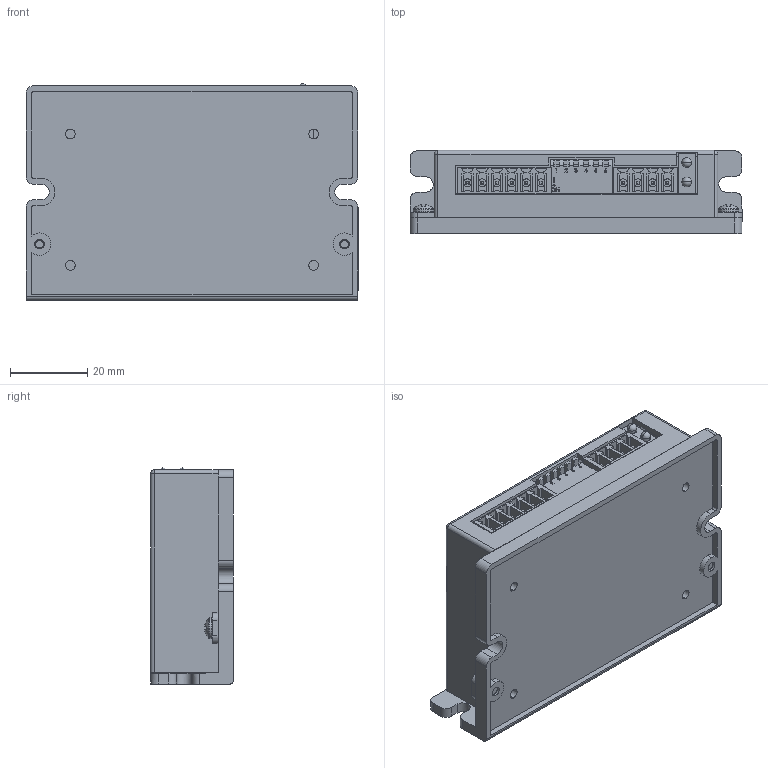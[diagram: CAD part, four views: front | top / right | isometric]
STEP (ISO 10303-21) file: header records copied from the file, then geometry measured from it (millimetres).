
FILE_DESCRIPTION (( 'STEP AP214' ), '1' );
FILE_NAME ('DM322E_3D.STEP', '2019-08-08T10:33:30', ( 'hwtest' ), ( 'Microsoft' ), 'SwSTEP 2.0', 'SolidWorks 2014', '' );
FILE_SCHEMA (( 'AUTOMOTIVE_DESIGN' ));
Length unit declared in the file: millimetre
Products named in the file (1): DM322E_3D
Bounding box: 86 x 21.5 x 56 mm (x, y, z)
Volume: 34341.3 mm3; surface area: 40785.2 mm2
Topology: 9 solids, 9 shells, 1048 faces, 2773 edges, 1799 vertices
Faces by surface type: plane 805, cylinder 159, bspline 56, sphere 10, cone 10, torus 8
Entity records: 50270 total; most frequent: CARTESIAN_POINT 12949, ORIENTED_EDGE 5534, DIRECTION 4877, EDGE_CURVE 2767, LINE 2217, VECTOR 2217, VERTEX_POINT 1799, AXIS2_PLACEMENT_3D 1330
